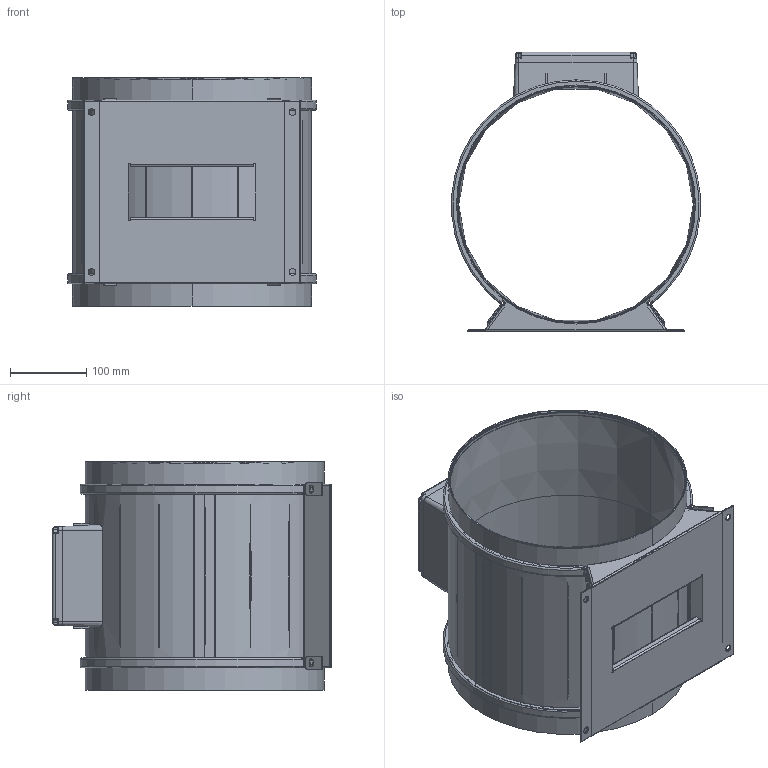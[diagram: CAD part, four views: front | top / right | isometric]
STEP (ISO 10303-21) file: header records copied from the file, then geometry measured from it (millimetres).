
FILE_DESCRIPTION (( 'STEP AP203' ), '1' );
FILE_NAME ('130708-00_EM315EC01.STEP', '2014-08-27T14:14:18', ( '' ), ( '' ), 'SwSTEP 2.0', 'SolidWorks 2012', '' );
FILE_SCHEMA (( 'CONFIG_CONTROL_DESIGN' ));
Length unit declared in the file: millimetre
Products named in the file (1): 130708-00_EM315EC01
Bounding box: 326.31 x 366.42 x 300 mm (x, y, z)
Surface area: 909082.5 mm2 (no closed solid volume)
Topology: 0 solids, 21 shells, 630 faces, 3069 edges, 2319 vertices
Faces by surface type: cylinder 218, plane 210, bspline 94, torus 73, cone 35
Entity records: 39318 total; most frequent: CARTESIAN_POINT 17005, ORIENTED_EDGE 4256, DIRECTION 4143, EDGE_CURVE 3061, VERTEX_POINT 2319, VECTOR 1587, LINE 1587, AXIS2_PLACEMENT_3D 1278
